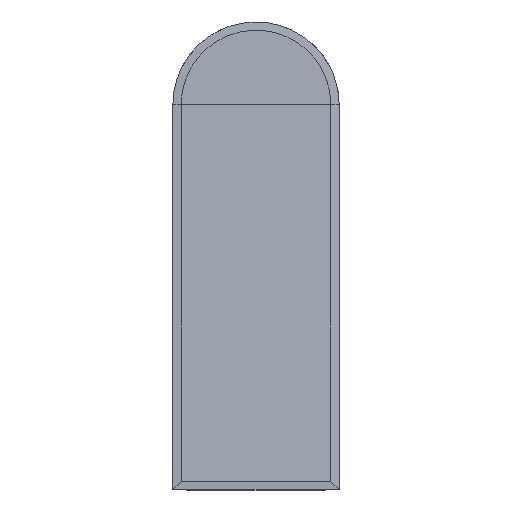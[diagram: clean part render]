
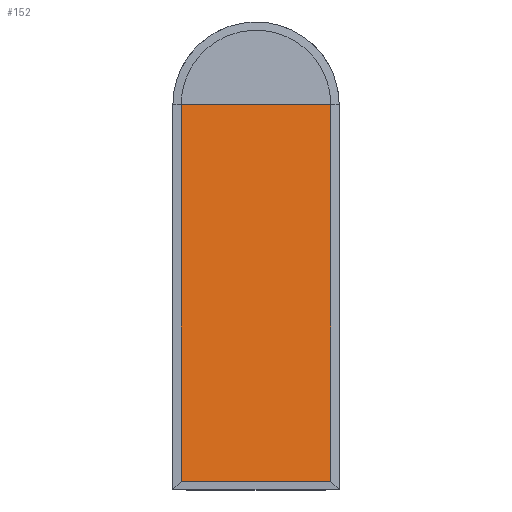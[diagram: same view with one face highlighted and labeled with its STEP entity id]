
A CAD part, front view. The second image highlights one B-rep face of the part: STEP entity #152.
In plain terms, the highlighted planar face has unit normal (0, -0.993, 0.117).
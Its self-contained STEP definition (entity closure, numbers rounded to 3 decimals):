
#152=ADVANCED_FACE('',(#248),#1382,.T.);
#248=FACE_OUTER_BOUND('',#344,.T.);
#344=EDGE_LOOP('',(#738,#739,#740,#741));
#738=ORIENTED_EDGE('',*,*,#959,.F.);
#739=ORIENTED_EDGE('',*,*,#961,.T.);
#740=ORIENTED_EDGE('',*,*,#964,.T.);
#741=ORIENTED_EDGE('',*,*,#966,.F.);
#959=EDGE_CURVE('',#1292,#1295,#1153,.T.);
#961=EDGE_CURVE('',#1292,#1294,#1155,.T.);
#964=EDGE_CURVE('',#1294,#1296,#1158,.T.);
#966=EDGE_CURVE('',#1295,#1296,#1160,.T.);
#1153=B_SPLINE_CURVE_WITH_KNOTS('',1,(#2368,#2369),.UNSPECIFIED.,.F.,.F.,
(2,2),(30.,1400.),.UNSPECIFIED.);
#1155=B_SPLINE_CURVE_WITH_KNOTS('',1,(#2374,#2375),.UNSPECIFIED.,.F.,.F.,
(2,2),(118.243,658.243),.UNSPECIFIED.);
#1158=B_SPLINE_CURVE_WITH_KNOTS('',1,(#2382,#2383),.UNSPECIFIED.,.F.,.F.,
(2,2),(30.,1400.),.UNSPECIFIED.);
#1160=B_SPLINE_CURVE_WITH_KNOTS('',1,(#2386,#2387),.UNSPECIFIED.,.F.,.F.,
(2,2),(-570.,-30.),.UNSPECIFIED.);
#1292=VERTEX_POINT('',#2340);
#1294=VERTEX_POINT('',#2342);
#1295=VERTEX_POINT('',#2343);
#1296=VERTEX_POINT('',#2344);
#1382=PLANE('',#1490);
#1490=AXIS2_PLACEMENT_3D('',#2214,#1582,$);
#1582=DIRECTION('',(0.,-0.993,0.117));
#2214=CARTESIAN_POINT('',(-2963.975,227.891,1858.961));
#2340=CARTESIAN_POINT('',(-3608.975,6.892,-10.522));
#2342=CARTESIAN_POINT('',(-3068.975,6.892,-10.522));
#2343=CARTESIAN_POINT('',(-3608.975,167.725,1350.005));
#2344=CARTESIAN_POINT('',(-3068.975,167.725,1350.005));
#2368=CARTESIAN_POINT('',(-3608.975,6.892,-10.522));
#2369=CARTESIAN_POINT('',(-3608.975,167.725,1350.005));
#2374=CARTESIAN_POINT('',(-3608.975,6.892,-10.522));
#2375=CARTESIAN_POINT('',(-3068.975,6.892,-10.522));
#2382=CARTESIAN_POINT('',(-3068.975,6.892,-10.522));
#2383=CARTESIAN_POINT('',(-3068.975,167.725,1350.005));
#2386=CARTESIAN_POINT('',(-3608.975,167.725,1350.005));
#2387=CARTESIAN_POINT('',(-3068.975,167.725,1350.005));
